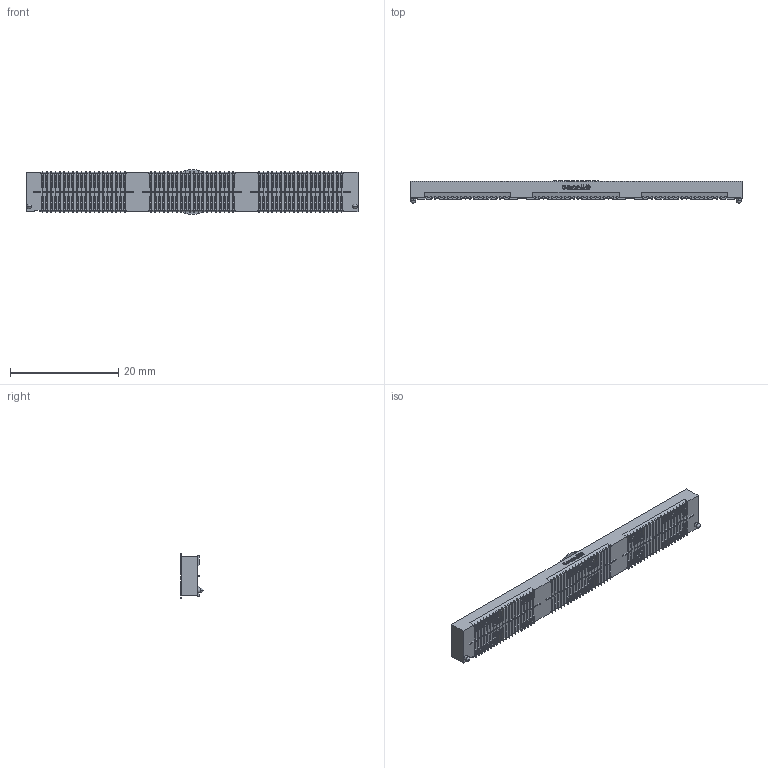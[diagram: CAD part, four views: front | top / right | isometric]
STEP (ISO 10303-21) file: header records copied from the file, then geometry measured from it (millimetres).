
FILE_DESCRIPTION (( 'STEP AP203' ), '1' );
FILE_NAME ('GT-B0806FSV32-120B0401.STEP', '2026-05-06T08:59:47', ( '' ), ( '' ), 'SwSTEP 2.0', 'SolidWorks 2020', '' );
FILE_SCHEMA (( 'CONFIG_CONTROL_DESIGN' ));
Length unit declared in the file: millimetre
Products named in the file (8): GT-B0806FSV32-120B0401; 66.stp; 22.stp; 11.stp; 44.stp; 33.stp; GT-B0806FSV32-120B0401.stp; 55.stp
Assembly tree (15 placements, depth 3):
  GT-B0806FSV32-120B0401
    GT-B0806FSV32-120B0401.stp
      11.stp
      22.stp  x3
      33.stp  x3
      44.stp  x3
      55.stp  x3
      66.stp
Bounding box: 61.29 x 4.14 x 8.26 mm (x, y, z)
Volume: 800 mm3; surface area: 4315.5 mm2
Topology: 14 solids, 14 shells, 4971 faces, 15094 edges, 10062 vertices
Faces by surface type: plane 3882, cylinder 1014, bspline 71, sphere 4
Entity records: 96166 total; most frequent: CARTESIAN_POINT 20543, ORIENTED_EDGE 16468, DIRECTION 14310, EDGE_CURVE 8234, LINE 7248, VECTOR 7248, VERTEX_POINT 5490, AXIS2_PLACEMENT_3D 3531
